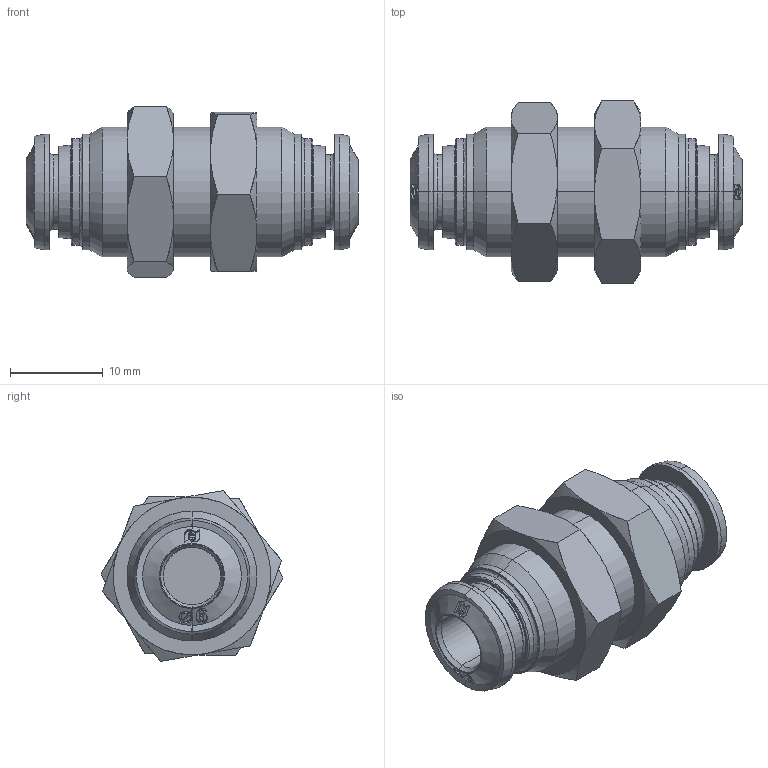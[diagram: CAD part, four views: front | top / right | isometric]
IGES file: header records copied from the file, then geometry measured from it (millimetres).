
Start section: SolidWorks IGES file using analytic representation for surfaces
Global section: file name: K:\Disegni Esecutivi\Serie 50000\ASSIEMI\50050\5005000002.IGS; native system: SolidWorks 2007; preprocessor: SolidWorks 2007; author: cad02; date: 071022.133924; units: millimetre
Bounding box: 35.8 x 19.62 x 18.43 mm (x, y, z)
Surface area: 3081.5 mm2 (no closed solid volume)
Topology: 0 solids, 0 shells, 280 faces, 3702 edges, 3702 vertices
Faces by surface type: bspline 152, revolution 128
